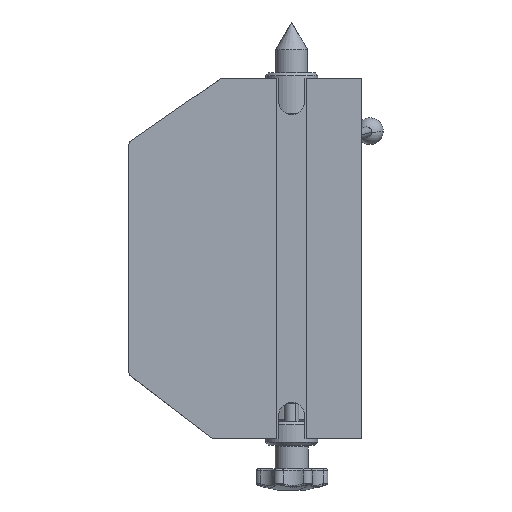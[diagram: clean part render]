
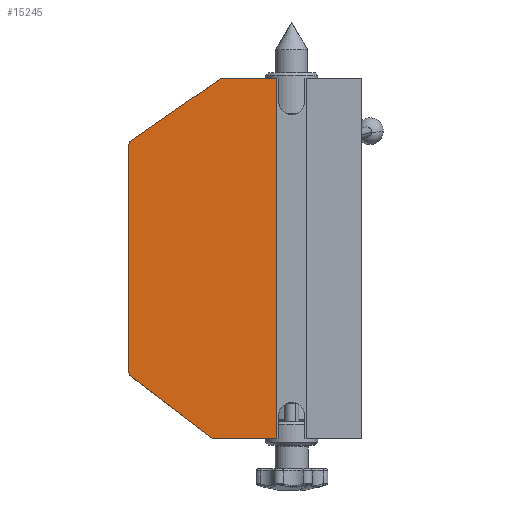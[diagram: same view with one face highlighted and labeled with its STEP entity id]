
A CAD part, front view. The second image highlights one B-rep face of the part: STEP entity #15245.
In plain terms, the highlighted planar face has unit normal (0, -1, 0).
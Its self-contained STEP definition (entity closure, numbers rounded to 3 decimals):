
#33 = ORIENTED_EDGE ( 'NONE', *, *, #4077, .T. ) ;
#34 = ORIENTED_EDGE ( 'NONE', *, *, #4078, .F. ) ;
#35 = ORIENTED_EDGE ( 'NONE', *, *, #4079, .F. ) ;
#36 = ORIENTED_EDGE ( 'NONE', *, *, #4080, .T. ) ;
#37 = ORIENTED_EDGE ( 'NONE', *, *, #4081, .T. ) ;
#38 = ORIENTED_EDGE ( 'NONE', *, *, #4082, .T. ) ;
#39 = ORIENTED_EDGE ( 'NONE', *, *, #4083, .T. ) ;
#40 = ORIENTED_EDGE ( 'NONE', *, *, #4084, .T. ) ;
#417 = VERTEX_POINT ( 'NONE', #9405 ) ;
#424 = VERTEX_POINT ( 'NONE', #9412 ) ;
#426 = VERTEX_POINT ( 'NONE', #9414 ) ;
#433 = VERTEX_POINT ( 'NONE', #9421 ) ;
#436 = VERTEX_POINT ( 'NONE', #9424 ) ;
#437 = VERTEX_POINT ( 'NONE', #9425 ) ;
#438 = VERTEX_POINT ( 'NONE', #9426 ) ;
#439 = VERTEX_POINT ( 'NONE', #9427 ) ;
#1616 = EDGE_LOOP ( 'NONE', ( #33, #34, #35, #36, #37, #38, #39, #40 ) ) ;
#4077 = EDGE_CURVE ( 'NONE', #417, #426, #6575, .T. ) ;
#4078 = EDGE_CURVE ( 'NONE', #424, #426, #6571, .T. ) ;
#4079 = EDGE_CURVE ( 'NONE', #433, #424, #6577, .T. ) ;
#4080 = EDGE_CURVE ( 'NONE', #433, #436, #6579, .T. ) ;
#4081 = EDGE_CURVE ( 'NONE', #436, #437, #6583, .T. ) ;
#4082 = EDGE_CURVE ( 'NONE', #437, #438, #6585, .T. ) ;
#4083 = EDGE_CURVE ( 'NONE', #438, #439, #6586, .T. ) ;
#4084 = EDGE_CURVE ( 'NONE', #439, #417, #6588, .T. ) ;
#4885 = AXIS2_PLACEMENT_3D ( 'NONE', #8974, #8975, #8976 ) ;
#4886 = AXIS2_PLACEMENT_3D ( 'NONE', #8978, #8979, #8980 ) ;
#6571 = LINE ( 'NONE', #8958, #6580 ) ;
#6575 = LINE ( 'NONE', #8964, #6578 ) ;
#6577 = LINE ( 'NONE', #8959, #6582 ) ;
#6578 = VECTOR ( 'NONE', #8966, 1000. ) ;
#6579 = LINE ( 'NONE', #8965, #6584 ) ;
#6580 = VECTOR ( 'NONE', #8967, 1000. ) ;
#6582 = VECTOR ( 'NONE', #8969, 1000. ) ;
#6583 = CIRCLE ( 'NONE', #4885, 3.175 ) ;
#6584 = VECTOR ( 'NONE', #8971, 1000. ) ;
#6585 = LINE ( 'NONE', #8970, #6587 ) ;
#6586 = CIRCLE ( 'NONE', #4886, 3.175 ) ;
#6587 = VECTOR ( 'NONE', #8968, 1000. ) ;
#6588 = LINE ( 'NONE', #8972, #6590 ) ;
#6590 = VECTOR ( 'NONE', #8973, 1000. ) ;
#8958 = CARTESIAN_POINT ( 'NONE',  ( -8., 0., 101.6 ) ) ;
#8959 = CARTESIAN_POINT ( 'NONE',  ( -88.9, 0., 98.425 ) ) ;
#8964 = CARTESIAN_POINT ( 'NONE',  ( -88.9, 0., -98.425 ) ) ;
#8965 = CARTESIAN_POINT ( 'NONE',  ( -38.1, 0., 98.643 ) ) ;
#8966 = DIRECTION ( 'NONE',  ( 1., 0., 0. ) ) ;
#8967 = DIRECTION ( 'NONE',  ( 0., 0., -1. ) ) ;
#8968 = DIRECTION ( 'NONE',  ( 0., 0., -1. ) ) ;
#8969 = DIRECTION ( 'NONE',  ( 1., 0., 0. ) ) ;
#8970 = CARTESIAN_POINT ( 'NONE',  ( -88.9, 0., 98.425 ) ) ;
#8971 = DIRECTION ( 'NONE',  ( -0.822, 0., -0.569 ) ) ;
#8972 = CARTESIAN_POINT ( 'NONE',  ( -88.9, 0., -63.5 ) ) ;
#8973 = DIRECTION ( 'NONE',  ( 0.795, 0., -0.607 ) ) ;
#8974 = CARTESIAN_POINT ( 'NONE',  ( -85.725, 0., 61.836 ) ) ;
#8975 = DIRECTION ( 'NONE',  ( 0., -1., 0. ) ) ;
#8976 = DIRECTION ( 'NONE',  ( -1., 0., 0. ) ) ;
#8978 = CARTESIAN_POINT ( 'NONE',  ( -85.725, 0., -61.929 ) ) ;
#8979 = DIRECTION ( 'NONE',  ( 0., -1., 0. ) ) ;
#8980 = DIRECTION ( 'NONE',  ( -1., 0., 0. ) ) ;
#9405 = CARTESIAN_POINT ( 'NONE',  ( -43.143, 0., -98.425 ) ) ;
#9412 = CARTESIAN_POINT ( 'NONE',  ( -8., 0., 98.425 ) ) ;
#9414 = CARTESIAN_POINT ( 'NONE',  ( -8., 0., -98.425 ) ) ;
#9421 = CARTESIAN_POINT ( 'NONE',  ( -38.416, 0., 98.425 ) ) ;
#9424 = CARTESIAN_POINT ( 'NONE',  ( -87.531, 0., 64.447 ) ) ;
#9425 = CARTESIAN_POINT ( 'NONE',  ( -88.9, 0., 61.836 ) ) ;
#9426 = CARTESIAN_POINT ( 'NONE',  ( -88.9, 0., -61.929 ) ) ;
#9427 = CARTESIAN_POINT ( 'NONE',  ( -87.651, 0., -64.453 ) ) ;
#11369 = AXIS2_PLACEMENT_3D ( 'NONE', #12840, #12841, #12842 ) ;
#11837 = FACE_OUTER_BOUND ( 'NONE', #1616, .T. ) ;
#12832 = PLANE ( 'NONE',  #11369 ) ;
#12840 = CARTESIAN_POINT ( 'NONE',  ( -88.9, 0., 98.425 ) ) ;
#12841 = DIRECTION ( 'NONE',  ( 0., 1., 0. ) ) ;
#12842 = DIRECTION ( 'NONE',  ( -1., 0., 0. ) ) ;
#15245 = ADVANCED_FACE ( 'NONE', ( #11837 ), #12832, .F. ) ;
